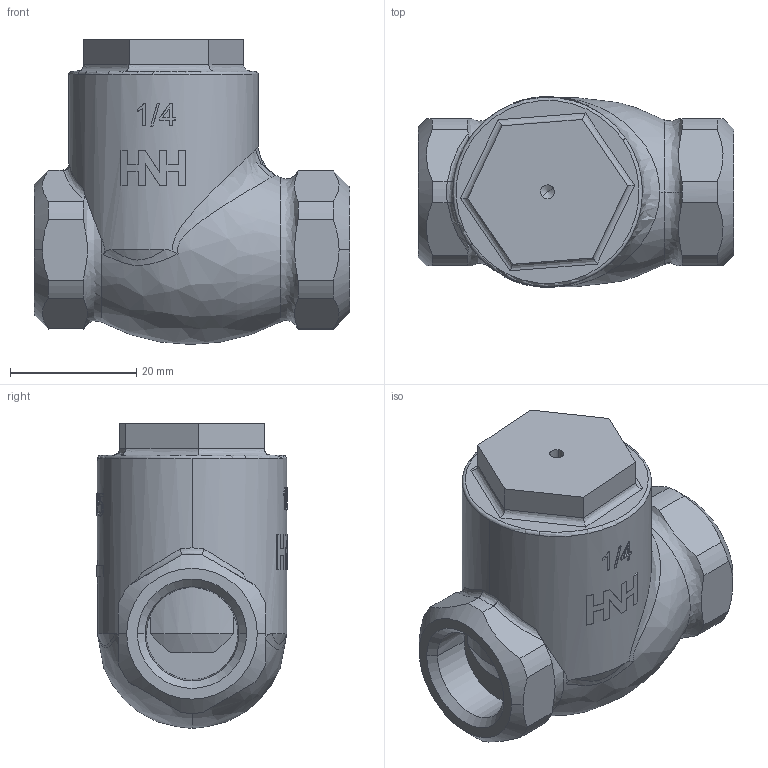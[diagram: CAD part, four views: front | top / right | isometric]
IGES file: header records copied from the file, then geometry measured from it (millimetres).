
Global section: file name: No Iges File Name specified; native system: AutoDesk Inventor R12.0; preprocessor: AutoDesk Inventor Iges Exporter R12.0; date: 20110303.135848; units: millimetre
Bounding box: 50 x 30.2 x 48.3 mm (x, y, z)
Volume: 32424.7 mm3; surface area: 9825.9 mm2
Topology: 1 solids, 2 shells, 223 faces, 609 edges, 403 vertices
Faces by surface type: plane 103, bspline 61, cylinder 26, revolution 23, cone 8, torus 2
